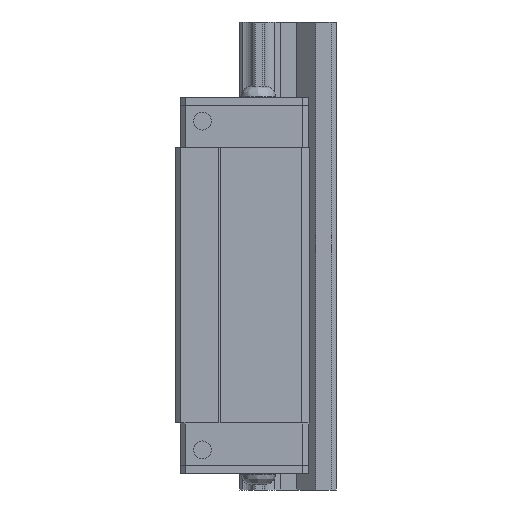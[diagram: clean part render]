
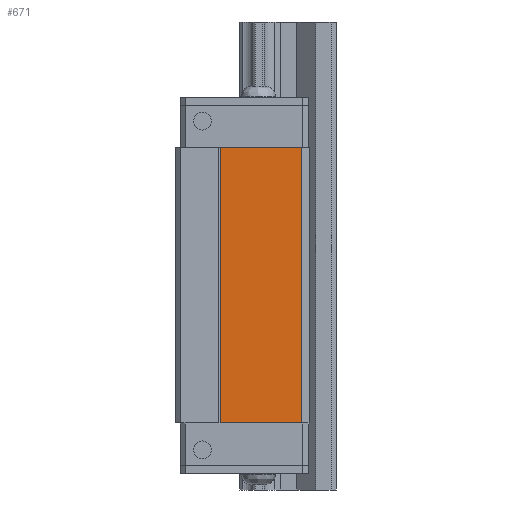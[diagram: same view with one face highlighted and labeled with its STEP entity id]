
A CAD part, left-side view. The second image highlights one B-rep face of the part: STEP entity #671.
In plain terms, the highlighted planar face has unit normal (-1, 0, 0).
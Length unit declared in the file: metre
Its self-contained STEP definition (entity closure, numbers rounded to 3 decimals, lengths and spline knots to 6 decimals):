
#671 = ADVANCED_FACE( '', ( #1431 ), #1432, .F. );
#1431 = FACE_OUTER_BOUND( '', #2397, .T. );
#1432 = PLANE( '', #2398 );
#2397 = EDGE_LOOP( '', ( #4242, #4243, #4244, #4245 ) );
#2398 = AXIS2_PLACEMENT_3D( '', #4246, #4247, #4248 );
#4242 = ORIENTED_EDGE( '', *, *, #5082, .T. );
#4243 = ORIENTED_EDGE( '', *, *, #5421, .F. );
#4244 = ORIENTED_EDGE( '', *, *, #5422, .F. );
#4245 = ORIENTED_EDGE( '', *, *, #4982, .T. );
#4246 = CARTESIAN_POINT( '', ( -0.0217, 0.0065, -0.0748 ) );
#4247 = DIRECTION( '', ( 1., 0., 0. ) );
#4248 = DIRECTION( '', ( 0., 1., 0. ) );
#4982 = EDGE_CURVE( '', #6014, #6012, #6015, .T. );
#5082 = EDGE_CURVE( '', #6012, #6164, #6166, .T. );
#5421 = EDGE_CURVE( '', #6629, #6164, #6630, .T. );
#5422 = EDGE_CURVE( '', #6014, #6629, #6631, .T. );
#6012 = VERTEX_POINT( '', #7414 );
#6014 = VERTEX_POINT( '', #7417 );
#6015 = LINE( '', #7418, #7419 );
#6164 = VERTEX_POINT( '', #7626 );
#6166 = LINE( '', #7629, #7630 );
#6629 = VERTEX_POINT( '', #8286 );
#6630 = LINE( '', #8287, #8288 );
#6631 = LINE( '', #8289, #8290 );
#7414 = CARTESIAN_POINT( '', ( -0.0217, 0.0065, -0.0235 ) );
#7417 = CARTESIAN_POINT( '', ( -0.0217, 0.0065, -0.0748 ) );
#7418 = CARTESIAN_POINT( '', ( -0.0217, 0.0065, -0.0748 ) );
#7419 = VECTOR( '', #8698, 1. );
#7626 = CARTESIAN_POINT( '', ( -0.0217, 0.0217, -0.0235 ) );
#7629 = CARTESIAN_POINT( '', ( -0.0217, 0.0065, -0.0235 ) );
#7630 = VECTOR( '', #8800, 1. );
#8286 = CARTESIAN_POINT( '', ( -0.0217, 0.0217, -0.0748 ) );
#8287 = CARTESIAN_POINT( '', ( -0.0217, 0.0217, -0.0748 ) );
#8288 = VECTOR( '', #9138, 1. );
#8289 = CARTESIAN_POINT( '', ( -0.0217, 0.0065, -0.0748 ) );
#8290 = VECTOR( '', #9139, 1. );
#8698 = DIRECTION( '', ( 0., 0., 1. ) );
#8800 = DIRECTION( '', ( 0., 1., 0. ) );
#9138 = DIRECTION( '', ( 0., 0., 1. ) );
#9139 = DIRECTION( '', ( 0., 1., 0. ) );
